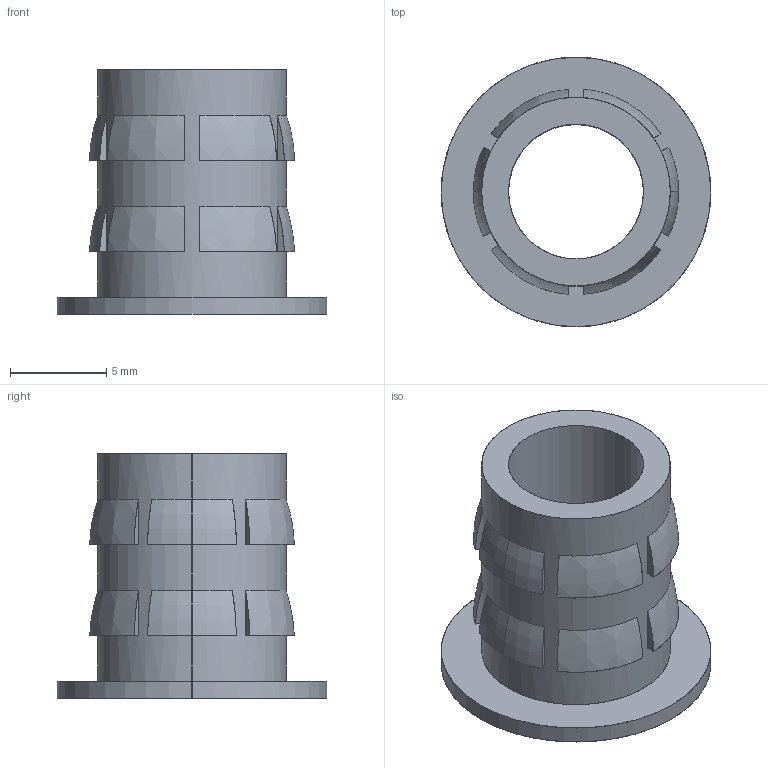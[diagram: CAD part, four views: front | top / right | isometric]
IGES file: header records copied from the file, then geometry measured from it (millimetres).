
Start section: SolidWorks IGES file using analytic representation for surfaces
Global section: file name: G:\thermofab project\INSERT\insert project\INSERT 3D\flanged insert M8.IGS; native system: SolidWorks 2015; preprocessor: SolidWorks 2015; author: Administrator; date: 170809.184655; units: millimetre
Bounding box: 14 x 14 x 12.7 mm (x, y, z)
Surface area: 951 mm2 (no closed solid volume)
Topology: 0 solids, 0 shells, 63 faces, 568 edges, 568 vertices
Faces by surface type: bspline 55, revolution 8
